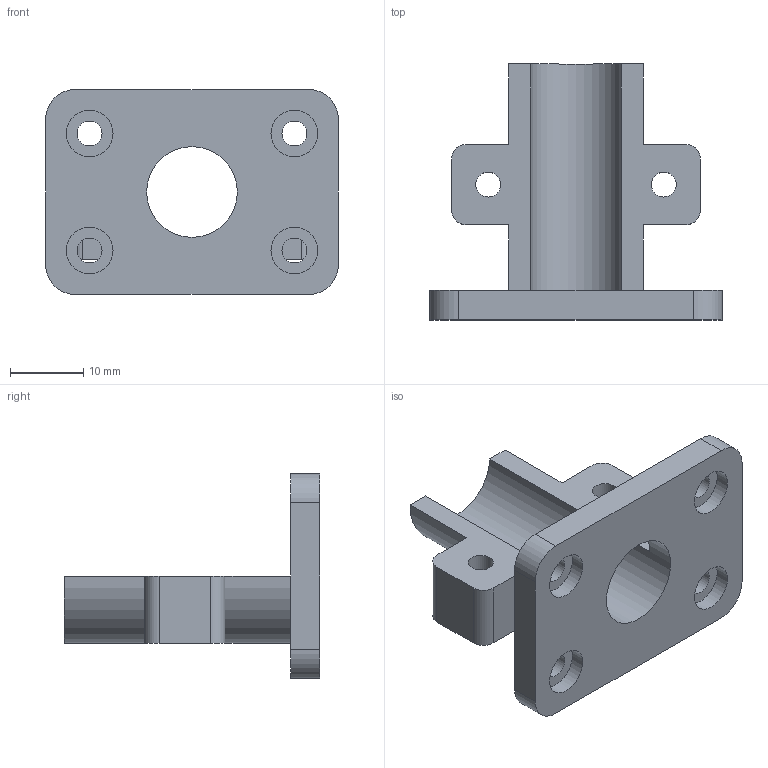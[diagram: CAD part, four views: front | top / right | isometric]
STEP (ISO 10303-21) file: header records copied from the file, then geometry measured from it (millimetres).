
FILE_DESCRIPTION(('FreeCAD Model'),'2;1');
FILE_NAME('Open CASCADE Shape Model','2026-10-26T18:20:28',('FreeCAD'),( 'FreeCAD'),'Open CASCADE STEP processor 7.8','FreeCAD','Unknown');
FILE_SCHEMA(('AUTOMOTIVE_DESIGN { 1 0 10303 214 1 1 1 1 }'));
Length unit declared in the file: millimetre
Products named in the file (1): Open CASCADE STEP translator 7.8 3
Bounding box: 40 x 35 x 28 mm (x, y, z)
Volume: 7539.8 mm3; surface area: 5455.8 mm2
Topology: 1 solids, 1 shells, 45 faces, 109 edges, 72 vertices
Faces by surface type: cylinder 23, plane 22
Full cylindrical faces by diameter (mm): 3.4 x6, 6.4 x6, 12.4 x1
Entity records: 1375 total; most frequent: DIRECTION 251, CARTESIAN_POINT 227, ORIENTED_EDGE 218, EDGE_CURVE 109, AXIS2_PLACEMENT_3D 96, VERTEX_POINT 72, FACE_BOUND 65, EDGE_LOOP 65
